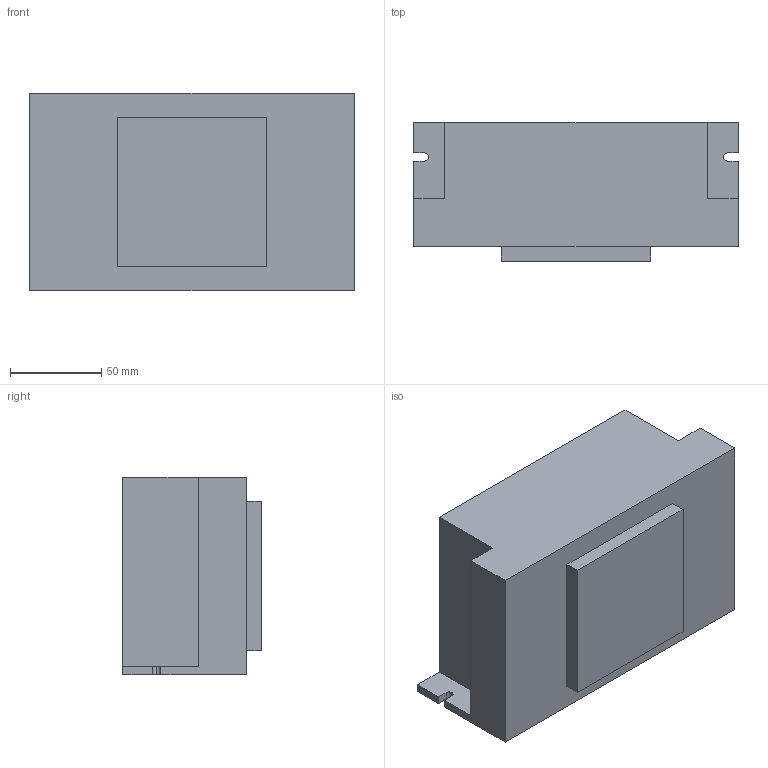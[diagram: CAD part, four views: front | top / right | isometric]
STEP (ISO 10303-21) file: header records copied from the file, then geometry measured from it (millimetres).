
FILE_DESCRIPTION (( 'STEP AP214' ), '1' );
FILE_NAME ('R110plus.STEP', '2020-12-02T08:05:35', ( 'wimxt.com' ), ( 'wimxt.com' ), 'SwSTEP 2.0', 'SolidWorks 2014', '' );
FILE_SCHEMA (( 'AUTOMOTIVE_DESIGN' ));
Length unit declared in the file: millimetre
Products named in the file (1): R110plus
Bounding box: 178 x 76 x 108.5 mm (x, y, z)
Volume: 1220381.2 mm3; surface area: 80205.3 mm2
Topology: 1 solids, 1 shells, 26 faces, 69 edges, 46 vertices
Faces by surface type: plane 23, cylinder 3
Entity records: 833 total; most frequent: CARTESIAN_POINT 142, ORIENTED_EDGE 138, DIRECTION 129, EDGE_CURVE 69, VECTOR 63, LINE 63, VERTEX_POINT 46, AXIS2_PLACEMENT_3D 33
